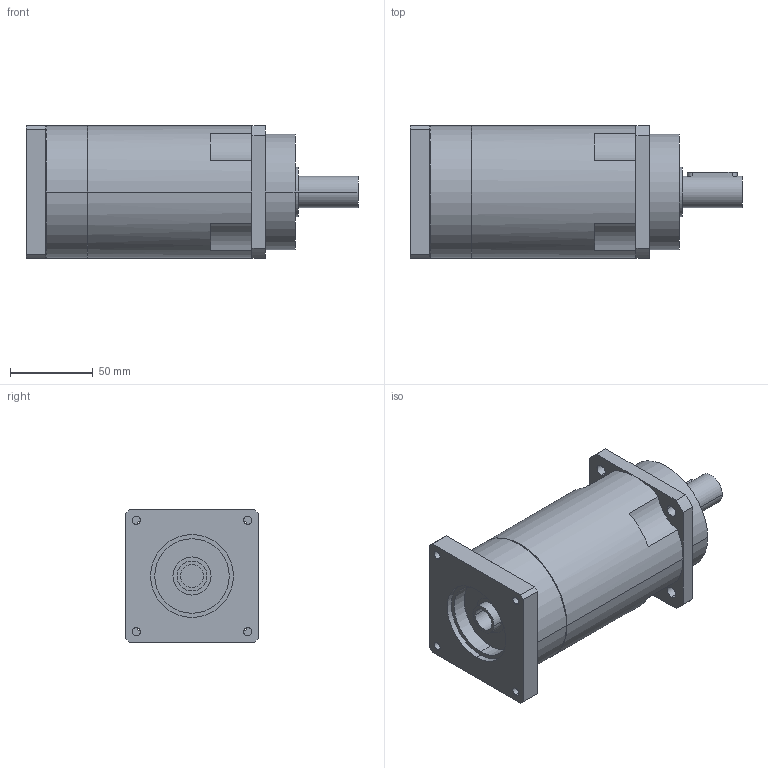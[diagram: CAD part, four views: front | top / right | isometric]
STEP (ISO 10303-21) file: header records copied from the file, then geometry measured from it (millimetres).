
FILE_DESCRIPTION(('CoCreate Modeling STEP Export'),'2;1');
FILE_NAME('GPR100_ig-48-64-80-100-120-144-180-216_19_B5_14_P21.stp','2014-08-26T11:54:45',(''),(''),'CoCreate Modeling STEP processor for AP214 (Solid Model)','CoCreate Modeling 16.00C 25-Feb-2009 (C) Parametric Technology GmbH','');
FILE_SCHEMA(('AUTOMOTIVE_DESIGN { 1 0 10303 214 1 1 1 1 }'));
Length unit declared in the file: millimetre
Products named in the file (2): GPR100_ig-48-64-80-100-120-144-180-216_19_B5_14_P21
Assembly tree (1 placements, depth 2):
  GPR100_ig-48-64-80-100-120-144-180-216_19_B5_14_P21
    GPR100_ig-48-64-80-100-120-144-180-216_19_B5_14_P21
Bounding box: 200.4 x 80 x 80 mm (x, y, z)
Volume: 799880.8 mm3; surface area: 64883.1 mm2
Topology: 1 solids, 1 shells, 89 faces, 245 edges, 167 vertices
Faces by surface type: cylinder 52, plane 31, cone 6
Entity records: 2602 total; most frequent: ORIENTED_EDGE 486, CARTESIAN_POINT 472, DIRECTION 386, EDGE_CURVE 243, VERTEX_POINT 167, AXIS2_PLACEMENT_3D 145, EDGE_LOOP 116, VECTOR 96
